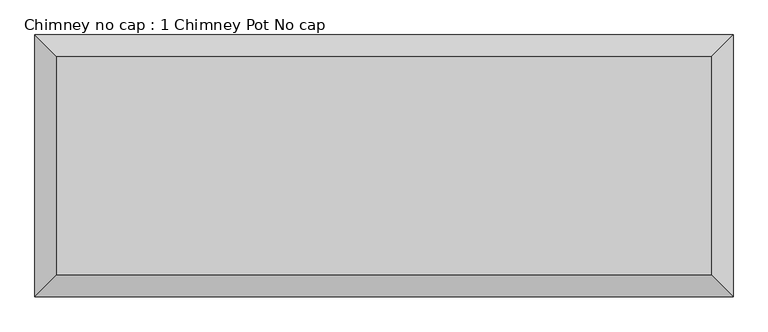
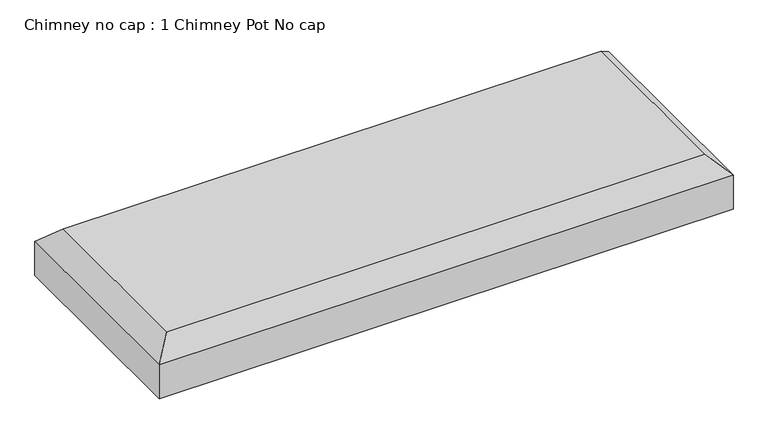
"""IFC4 building model written with IfcOpenShell, lengths in millimetres: proxy geometry, Chimney no cap : 1 Chimney Pot No cap."""

from ifc_helpers import new_model, si_unit, origin, place, context, project, spatial, faceted_brep, source, transform, mapped, element, save


def chimney_no_cap_1_chimney_pot_no_cap_fb59864e(model_context):
    return source(origin(), model_context, "Body", "Brep", [
        faceted_brep([(-762.0, -254.0, 152.4), (762.0, -254.0, 152.4), (762.0, 254.0, 152.4), (-762.0, 254.0, 152.4), (-812.8, -304.8, 0.0), (-812.8, 304.8, 0.0), (812.8, 304.8, 0.0), (812.8, -304.8, 0.0), (812.8, -304.8, 101.6), (-812.8, -304.8, 101.6), (812.8, 304.8, 101.6), (-812.8, 304.8, 101.6)], [[[0, 1, 2, 3]], [[4, 5, 6, 7]], [[4, 7, 8, 9]], [[7, 6, 10, 8]], [[6, 5, 11, 10]], [[5, 4, 9, 11]], [[8, 1, 0, 9]], [[1, 8, 10, 2]], [[2, 10, 11, 3]], [[9, 0, 3, 11]]]),
    ])


if __name__ == "__main__":
    model = new_model("IFC4")
    model_context = context("Model", 3, world=origin())
    ifc_project = project(units=[si_unit("LENGTHUNIT", "METRE", prefix="MILLI")], contexts=[model_context])
    site = spatial("IfcSite", under=ifc_project)
    building = spatial("IfcBuilding", under=site)
    placement = place(None, origin())
    chimney_no_cap_1_chimney_pot_no_cap_shape = chimney_no_cap_1_chimney_pot_no_cap_fb59864e(model_context)
    element("IfcBuildingElementProxy", 1, Name="Chimney no cap : 1 Chimney Pot No cap", ObjectType="Chimney no cap : 1 Chimney Pot No cap", at=placement, inside=building, context=model_context, shape_type="MappedRepresentation", body=[
        mapped(chimney_no_cap_1_chimney_pot_no_cap_shape, transform((0.0, 0.0, 0.0), x_axis=(1.0, 0.0, 0.0), y_axis=(0.0, 1.0, 0.0), z_axis=(0.0, 0.0, 1.0))),
    ])
    save(model, "model.ifc")
